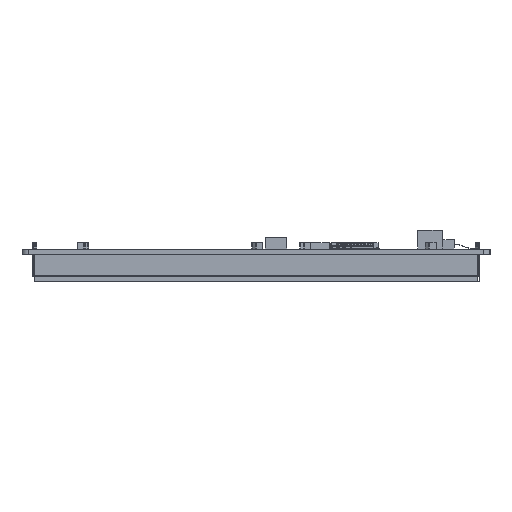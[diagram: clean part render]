
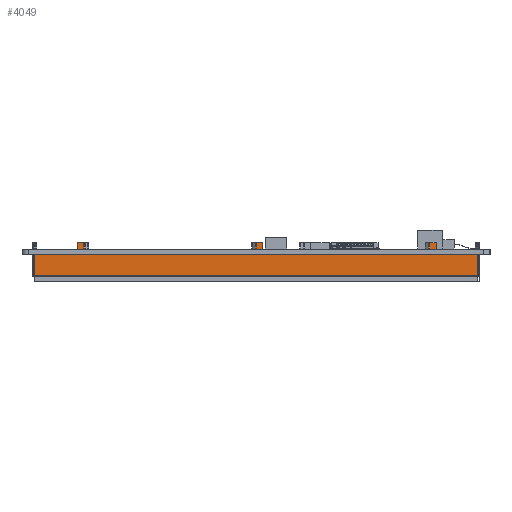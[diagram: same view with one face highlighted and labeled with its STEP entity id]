
A CAD part, left-side view. The second image highlights one B-rep face of the part: STEP entity #4049.
In plain terms, the highlighted planar face has unit normal (-1, 0, 0).
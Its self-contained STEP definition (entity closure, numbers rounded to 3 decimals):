
#4049=ADVANCED_FACE('',(#6572),#5227,.F.);
#5227=PLANE('',#31647);
#6572=FACE_OUTER_BOUND('',#8075,.T.);
#8075=EDGE_LOOP('',(#14833,#14834,#14835,#14836,#14837,#14838,#14839,#14840,
#14841,#14842,#14843,#14844,#14845,#14846,#14847,#14848,#14849,#14850,#14851,
#14852,#14853,#14854));
#14833=ORIENTED_EDGE('',*,*,#22402,.F.);
#14834=ORIENTED_EDGE('',*,*,#22403,.T.);
#14835=ORIENTED_EDGE('',*,*,#22404,.T.);
#14836=ORIENTED_EDGE('',*,*,#22399,.T.);
#14837=ORIENTED_EDGE('',*,*,#22405,.F.);
#14838=ORIENTED_EDGE('',*,*,#22406,.F.);
#14839=ORIENTED_EDGE('',*,*,#22407,.T.);
#14840=ORIENTED_EDGE('',*,*,#22408,.T.);
#14841=ORIENTED_EDGE('',*,*,#22409,.T.);
#14842=ORIENTED_EDGE('',*,*,#22395,.T.);
#14843=ORIENTED_EDGE('',*,*,#22410,.F.);
#14844=ORIENTED_EDGE('',*,*,#22411,.F.);
#14845=ORIENTED_EDGE('',*,*,#22412,.T.);
#14846=ORIENTED_EDGE('',*,*,#22413,.T.);
#14847=ORIENTED_EDGE('',*,*,#22414,.T.);
#14848=ORIENTED_EDGE('',*,*,#22391,.T.);
#14849=ORIENTED_EDGE('',*,*,#22415,.F.);
#14850=ORIENTED_EDGE('',*,*,#22416,.T.);
#14851=ORIENTED_EDGE('',*,*,#22417,.F.);
#14852=ORIENTED_EDGE('',*,*,#22418,.F.);
#14853=ORIENTED_EDGE('',*,*,#22419,.T.);
#14854=ORIENTED_EDGE('',*,*,#22389,.T.);
#18611=VERTEX_POINT('',#46125);
#18613=VERTEX_POINT('',#46129);
#18614=VERTEX_POINT('',#46133);
#18616=VERTEX_POINT('',#46136);
#18618=VERTEX_POINT('',#46142);
#18620=VERTEX_POINT('',#46145);
#18622=VERTEX_POINT('',#46151);
#18624=VERTEX_POINT('',#46154);
#18626=VERTEX_POINT('',#46160);
#18627=VERTEX_POINT('',#46162);
#18628=VERTEX_POINT('',#46165);
#18629=VERTEX_POINT('',#46167);
#18630=VERTEX_POINT('',#46169);
#18631=VERTEX_POINT('',#46171);
#18632=VERTEX_POINT('',#46174);
#18633=VERTEX_POINT('',#46176);
#18634=VERTEX_POINT('',#46178);
#18635=VERTEX_POINT('',#46180);
#18636=VERTEX_POINT('',#46183);
#18637=VERTEX_POINT('',#46185);
#18638=VERTEX_POINT('',#46187);
#18639=VERTEX_POINT('',#46189);
#22389=EDGE_CURVE('',#18611,#18613,#25940,.T.);
#22391=EDGE_CURVE('',#18616,#18614,#25942,.T.);
#22395=EDGE_CURVE('',#18620,#18618,#25946,.T.);
#22399=EDGE_CURVE('',#18624,#18622,#25950,.T.);
#22402=EDGE_CURVE('',#18626,#18613,#25953,.T.);
#22403=EDGE_CURVE('',#18626,#18627,#25954,.T.);
#22404=EDGE_CURVE('',#18627,#18624,#25955,.T.);
#22405=EDGE_CURVE('',#18628,#18622,#25956,.T.);
#22406=EDGE_CURVE('',#18629,#18628,#25957,.T.);
#22407=EDGE_CURVE('',#18629,#18630,#25958,.T.);
#22408=EDGE_CURVE('',#18630,#18631,#25959,.T.);
#22409=EDGE_CURVE('',#18631,#18620,#25960,.T.);
#22410=EDGE_CURVE('',#18632,#18618,#25961,.T.);
#22411=EDGE_CURVE('',#18633,#18632,#25962,.T.);
#22412=EDGE_CURVE('',#18633,#18634,#25963,.T.);
#22413=EDGE_CURVE('',#18634,#18635,#25964,.T.);
#22414=EDGE_CURVE('',#18635,#18616,#25965,.T.);
#22415=EDGE_CURVE('',#18636,#18614,#25966,.T.);
#22416=EDGE_CURVE('',#18636,#18637,#25967,.T.);
#22417=EDGE_CURVE('',#18638,#18637,#25968,.T.);
#22418=EDGE_CURVE('',#18639,#18638,#25969,.T.);
#22419=EDGE_CURVE('',#18639,#18611,#25970,.T.);
#25940=LINE('',#46130,#29322);
#25942=LINE('',#46135,#29324);
#25946=LINE('',#46144,#29328);
#25950=LINE('',#46153,#29332);
#25953=LINE('',#46159,#29335);
#25954=LINE('',#46161,#29336);
#25955=LINE('',#46163,#29337);
#25956=LINE('',#46164,#29338);
#25957=LINE('',#46166,#29339);
#25958=LINE('',#46168,#29340);
#25959=LINE('',#46170,#29341);
#25960=LINE('',#46172,#29342);
#25961=LINE('',#46173,#29343);
#25962=LINE('',#46175,#29344);
#25963=LINE('',#46177,#29345);
#25964=LINE('',#46179,#29346);
#25965=LINE('',#46181,#29347);
#25966=LINE('',#46182,#29348);
#25967=LINE('',#46184,#29349);
#25968=LINE('',#46186,#29350);
#25969=LINE('',#46188,#29351);
#25970=LINE('',#46190,#29352);
#29322=VECTOR('',#38080,1.);
#29324=VECTOR('',#38084,1.);
#29328=VECTOR('',#38090,1.);
#29332=VECTOR('',#38096,1.);
#29335=VECTOR('',#38101,1.);
#29336=VECTOR('',#38102,1.);
#29337=VECTOR('',#38103,1.);
#29338=VECTOR('',#38104,1.);
#29339=VECTOR('',#38105,1.);
#29340=VECTOR('',#38106,1.);
#29341=VECTOR('',#38107,1.);
#29342=VECTOR('',#38108,1.);
#29343=VECTOR('',#38109,1.);
#29344=VECTOR('',#38110,1.);
#29345=VECTOR('',#38111,1.);
#29346=VECTOR('',#38112,1.);
#29347=VECTOR('',#38113,1.);
#29348=VECTOR('',#38114,1.);
#29349=VECTOR('',#38115,1.);
#29350=VECTOR('',#38116,1.);
#29351=VECTOR('',#38117,1.);
#29352=VECTOR('',#38118,1.);
#31647=AXIS2_PLACEMENT_3D('',#46191,#38119,#38120);
#38080=DIRECTION('',(0.,1.,0.));
#38084=DIRECTION('',(0.,1.,0.));
#38090=DIRECTION('',(0.,1.,0.));
#38096=DIRECTION('',(0.,1.,0.));
#38101=DIRECTION('',(0.,0.,1.));
#38102=DIRECTION('',(0.,-1.,0.));
#38103=DIRECTION('',(0.,0.,1.));
#38104=DIRECTION('',(0.,0.,-1.));
#38105=DIRECTION('',(0.,-1.,0.));
#38106=DIRECTION('',(0.,0.,-1.));
#38107=DIRECTION('',(0.,-1.,0.));
#38108=DIRECTION('',(0.,0.,-1.));
#38109=DIRECTION('',(0.,0.,-1.));
#38110=DIRECTION('',(0.,-1.,0.));
#38111=DIRECTION('',(0.,0.,-1.));
#38112=DIRECTION('',(0.,-1.,0.));
#38113=DIRECTION('',(0.,0.,-1.));
#38114=DIRECTION('',(0.,0.,-1.));
#38115=DIRECTION('',(0.,-1.,0.));
#38116=DIRECTION('',(0.,0.,-1.));
#38117=DIRECTION('',(0.,-1.,0.));
#38118=DIRECTION('',(0.,0.,-1.));
#38119=DIRECTION('',(1.,0.,0.));
#38120=DIRECTION('',(0.,-1.,0.));
#46125=CARTESIAN_POINT('',(-84.85,60.795,-1.6));
#46129=CARTESIAN_POINT('',(-84.85,74.48,-1.6));
#46130=CARTESIAN_POINT('',(-84.85,-66.52,-1.6));
#46133=CARTESIAN_POINT('',(-84.85,58.795,-1.6));
#46135=CARTESIAN_POINT('',(-84.85,-66.52,-1.6));
#46136=CARTESIAN_POINT('',(-84.85,3.795,-1.6));
#46142=CARTESIAN_POINT('',(-84.85,1.795,-1.6));
#46144=CARTESIAN_POINT('',(-84.85,-66.52,-1.6));
#46145=CARTESIAN_POINT('',(-84.85,-51.325,-1.6));
#46151=CARTESIAN_POINT('',(-84.85,-53.325,-1.6));
#46153=CARTESIAN_POINT('',(-84.85,-66.52,-1.6));
#46154=CARTESIAN_POINT('',(-84.85,-66.52,-1.6));
#46159=CARTESIAN_POINT('',(-84.85,74.48,-8.8));
#46160=CARTESIAN_POINT('',(-84.85,74.48,-8.4));
#46161=CARTESIAN_POINT('',(-84.85,-66.52,-8.4));
#46162=CARTESIAN_POINT('',(-84.85,-66.52,-8.4));
#46163=CARTESIAN_POINT('',(-84.85,-66.52,-8.8));
#46164=CARTESIAN_POINT('',(-84.85,-53.325,2.));
#46165=CARTESIAN_POINT('',(-84.85,-53.325,2.));
#46166=CARTESIAN_POINT('',(-84.85,-51.243,2.));
#46167=CARTESIAN_POINT('',(-84.85,-51.243,2.));
#46168=CARTESIAN_POINT('',(-84.85,-51.243,2.));
#46169=CARTESIAN_POINT('',(-84.85,-51.243,0.));
#46170=CARTESIAN_POINT('',(-84.85,-51.243,0.));
#46171=CARTESIAN_POINT('',(-84.85,-51.325,0.));
#46172=CARTESIAN_POINT('',(-84.85,-51.325,0.));
#46173=CARTESIAN_POINT('',(-84.85,1.795,2.));
#46174=CARTESIAN_POINT('',(-84.85,1.795,2.));
#46175=CARTESIAN_POINT('',(-84.85,3.877,2.));
#46176=CARTESIAN_POINT('',(-84.85,3.877,2.));
#46177=CARTESIAN_POINT('',(-84.85,3.877,2.));
#46178=CARTESIAN_POINT('',(-84.85,3.877,0.));
#46179=CARTESIAN_POINT('',(-84.85,3.877,0.));
#46180=CARTESIAN_POINT('',(-84.85,3.795,0.));
#46181=CARTESIAN_POINT('',(-84.85,3.795,0.));
#46182=CARTESIAN_POINT('',(-84.85,58.795,0.));
#46183=CARTESIAN_POINT('',(-84.85,58.795,0.));
#46184=CARTESIAN_POINT('',(-84.85,60.795,0.));
#46185=CARTESIAN_POINT('',(-84.85,58.713,0.));
#46186=CARTESIAN_POINT('',(-84.85,58.713,2.));
#46187=CARTESIAN_POINT('',(-84.85,58.713,2.));
#46188=CARTESIAN_POINT('',(-84.85,60.795,2.));
#46189=CARTESIAN_POINT('',(-84.85,60.795,2.));
#46190=CARTESIAN_POINT('',(-84.85,60.795,2.));
#46191=CARTESIAN_POINT('',(-84.85,-66.52,-8.8));
